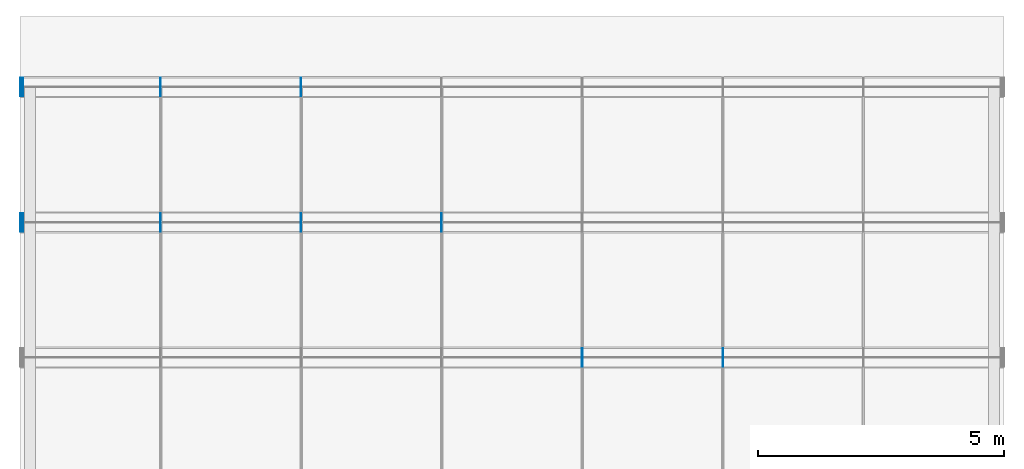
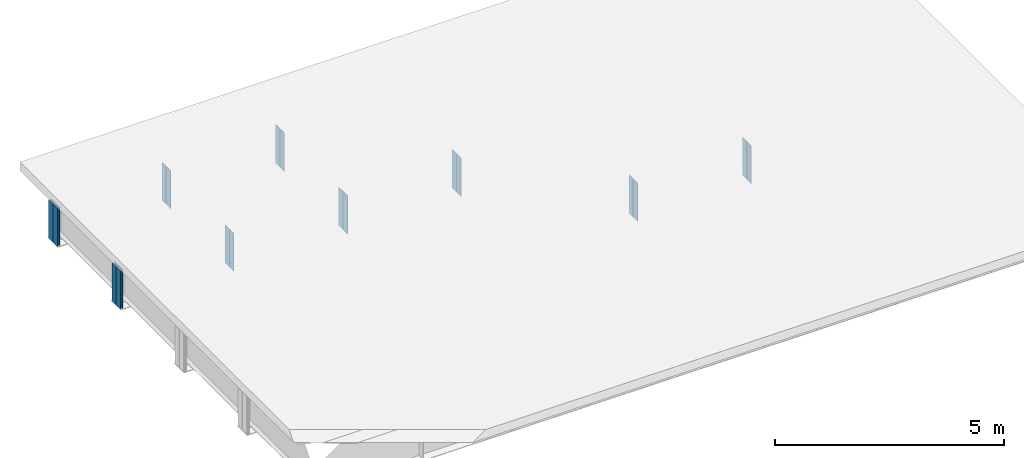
# One storey, part 8 of 12: 22 plates.
"""IFC4 building model written with IfcOpenShell, lengths in metres."""

from ifc_helpers import new_model, si_unit, frame, origin, origin_with_axes, origin_2d_with_axis, place, context, subcontext, project, spatial, rectangle, extrude, element, save


model = new_model("IFC4")

# Units and contexts
model_context = context("Model", 3, precision=1e-05, world=origin())
body_context = subcontext(model_context, "Body", "Model", "MODEL_VIEW")
ifc_project = project(units=[si_unit("LENGTHUNIT", "METRE"), si_unit("AREAUNIT", "SQUARE_METRE"), si_unit("VOLUMEUNIT", "CUBIC_METRE"), si_unit("PLANEANGLEUNIT", "RADIAN")], contexts=[model_context])

# Site, building, storey
site_placement = place(None, origin_with_axes())
site = spatial("IfcSite", under=ifc_project, at=site_placement, Name="Default Site")
building_placement = place(site_placement, origin_with_axes())
building = spatial("IfcBuilding", under=site, at=building_placement, Name="Bridge Structure")
storey_placement = place(building_placement, origin_with_axes())
storey = spatial("IfcBuildingStorey", under=building, at=storey_placement, Name="Superstructure")

# Plates
for number, where, z_axis, x_axis, name in (
    (1, (11.428, 0.09625, -0.507), (0.0, 0.0, 1.0), (1.0, 0.0, 0.0), "Intermediate Stiffener 3"),
    (2, (11.428, -0.09625, -0.507), (0.0, 0.0, 1.0), (1.0, 0.0, 0.0), "Intermediate Stiffener 3"),
    (3, (14.285, 0.09625, -0.507), (0.0, 0.0, 1.0), (1.0, 0.0, 0.0), "Intermediate Stiffener 3"),
    (4, (14.285, -0.09625, -0.507), (0.0, 0.0, 1.0), (1.0, 0.0, 0.0), "Intermediate Stiffener 3"),
    (5, (2.857, 2.84625, -0.507), (0.0, 0.0, 1.0), (1.0, 0.0, 0.0), "Intermediate Stiffener 4"),
    (6, (2.857, 2.65375, -0.507), (0.0, 0.0, 1.0), (1.0, 0.0, 0.0), "Intermediate Stiffener 4"),
    (7, (5.714, 2.84625, -0.507), (0.0, 0.0, 1.0), (1.0, 0.0, 0.0), "Intermediate Stiffener 4"),
    (8, (5.714, 2.65375, -0.507), (0.0, 0.0, 1.0), (1.0, 0.0, 0.0), "Intermediate Stiffener 4"),
    (9, (8.571, 2.84625, -0.507), (0.0, 0.0, 1.0), (1.0, 0.0, 0.0), "Intermediate Stiffener 4"),
    (10, (8.571, 2.65375, -0.507), (0.0, 0.0, 1.0), (1.0, 0.0, 0.0), "Intermediate Stiffener 4"),
):
    element("IfcPlate", number, at=place(storey_placement, frame(where, z_axis=z_axis, x_axis=x_axis)), inside=storey, Name=name, context=body_context, shape_type="SweptSolid", body=[
        extrude(rectangle(XDim=0.012, YDim=0.1825, at=origin_2d_with_axis()), origin_with_axes(), (0.0, 0.0, 1.0), 1.014),
    ])
for number, where, z_axis, x_axis, name in (
    (11, (0.01, 2.84625, -0.507), (0.0, 0.0, 1.0), (1.0, 0.0, 0.0), "End Stiffener 4"),
    (12, (0.01, 2.65375, -0.507), (0.0, 0.0, 1.0), (1.0, 0.0, 0.0), "End Stiffener 4"),
    (13, (0.06, 2.84625, -0.507), (0.0, 0.0, 1.0), (1.0, 0.0, 0.0), "End Stiffener 4"),
    (14, (0.06, 2.65375, -0.507), (0.0, 0.0, 1.0), (1.0, 0.0, 0.0), "End Stiffener 4"),
):
    element("IfcPlate", number, at=place(storey_placement, frame(where, z_axis=z_axis, x_axis=x_axis)), inside=storey, Name=name, context=body_context, shape_type="SweptSolid", body=[
        extrude(rectangle(XDim=0.02, YDim=0.1825, at=origin_2d_with_axis()), origin_with_axes(), (0.0, 0.0, 1.0), 1.014),
    ])
for number, where, z_axis, x_axis, name in (
    (15, (2.857, 5.59625, -0.507), (0.0, 0.0, 1.0), (1.0, 0.0, 0.0), "Intermediate Stiffener 5"),
    (16, (2.857, 5.4037500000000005, -0.507), (0.0, 0.0, 1.0), (1.0, 0.0, 0.0), "Intermediate Stiffener 5"),
    (17, (5.714, 5.59625, -0.507), (0.0, 0.0, 1.0), (1.0, 0.0, 0.0), "Intermediate Stiffener 5"),
    (18, (5.714, 5.4037500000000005, -0.507), (0.0, 0.0, 1.0), (1.0, 0.0, 0.0), "Intermediate Stiffener 5"),
):
    element("IfcPlate", number, at=place(storey_placement, frame(where, z_axis=z_axis, x_axis=x_axis)), inside=storey, Name=name, context=body_context, shape_type="SweptSolid", body=[
        extrude(rectangle(XDim=0.012, YDim=0.1825, at=origin_2d_with_axis()), origin_with_axes(), (0.0, 0.0, 1.0), 1.014),
    ])
for number, where, z_axis, x_axis, name in (
    (19, (0.01, 5.59625, -0.507), (0.0, 0.0, 1.0), (1.0, 0.0, 0.0), "End Stiffener 5"),
    (20, (0.01, 5.4037500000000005, -0.507), (0.0, 0.0, 1.0), (1.0, 0.0, 0.0), "End Stiffener 5"),
    (21, (0.06, 5.59625, -0.507), (0.0, 0.0, 1.0), (1.0, 0.0, 0.0), "End Stiffener 5"),
    (22, (0.06, 5.4037500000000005, -0.507), (0.0, 0.0, 1.0), (1.0, 0.0, 0.0), "End Stiffener 5"),
):
    element("IfcPlate", number, at=place(storey_placement, frame(where, z_axis=z_axis, x_axis=x_axis)), inside=storey, Name=name, context=body_context, shape_type="SweptSolid", body=[
        extrude(rectangle(XDim=0.02, YDim=0.1825, at=origin_2d_with_axis()), origin_with_axes(), (0.0, 0.0, 1.0), 1.014),
    ])

save(model, "model.ifc")
